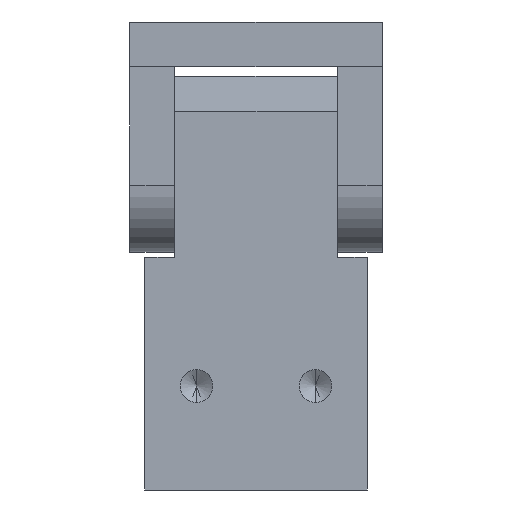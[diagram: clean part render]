
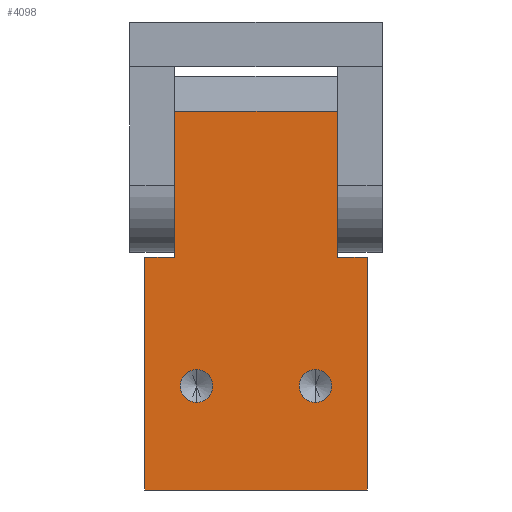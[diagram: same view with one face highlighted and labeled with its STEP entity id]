
A CAD part, left-side view. The second image highlights one B-rep face of the part: STEP entity #4098.
In plain terms, the highlighted planar face has unit normal (-1, 0, 0).
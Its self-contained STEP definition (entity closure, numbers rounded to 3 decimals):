
#5 = CARTESIAN_POINT ( 'NONE',  ( -58., 0., 47. ) ) ;
#6 = LINE ( 'NONE', #5, #8 ) ;
#8 = VECTOR ( 'NONE', #14, 1000. ) ;
#14 = DIRECTION ( 'NONE',  ( 0., -1., 0. ) ) ;
#23 = AXIS2_PLACEMENT_3D ( 'NONE', #39, #58, #53 ) ;
#25 = PLANE ( 'NONE',  #23 ) ;
#39 = CARTESIAN_POINT ( 'NONE',  ( -58., 0., 47. ) ) ;
#53 = DIRECTION ( 'NONE',  ( 0., 0., -1. ) ) ;
#58 = DIRECTION ( 'NONE',  ( 1., 0., 0. ) ) ;
#59 = FACE_BOUND ( 'NONE', #4097, .T. ) ;
#64 = CARTESIAN_POINT ( 'NONE',  ( -58., 38.95, 76.5 ) ) ;
#67 = FACE_OUTER_BOUND ( 'NONE', #4287, .T. ) ;
#71 = FACE_BOUND ( 'NONE', #4024, .T. ) ;
#150 = CARTESIAN_POINT ( 'NONE',  ( -58., 38.95, 47. ) ) ;
#227 = CARTESIAN_POINT ( 'NONE',  ( -58., 0., 47. ) ) ;
#228 = LINE ( 'NONE', #227, #255 ) ;
#234 = LINE ( 'NONE', #250, #249 ) ;
#237 = DIRECTION ( 'NONE',  ( 0., 0., -1. ) ) ;
#248 = DIRECTION ( 'NONE',  ( 0., -1., 0. ) ) ;
#249 = VECTOR ( 'NONE', #248, 1000. ) ;
#250 = CARTESIAN_POINT ( 'NONE',  ( -58., 0., 47. ) ) ;
#255 = VECTOR ( 'NONE', #237, 1000. ) ;
#267 = CARTESIAN_POINT ( 'NONE',  ( -58., 0., 47. ) ) ;
#3000 = CARTESIAN_POINT ( 'NONE',  ( -58., 0., 0. ) ) ;
#3036 = VECTOR ( 'NONE', #3051, 1000. ) ;
#3037 = CARTESIAN_POINT ( 'NONE',  ( -58., 34.5, 21. ) ) ;
#3038 = DIRECTION ( 'NONE',  ( 0., 0., -1. ) ) ;
#3039 = VECTOR ( 'NONE', #3038, 1000. ) ;
#3040 = CARTESIAN_POINT ( 'NONE',  ( -58., 38.95, 83.5 ) ) ;
#3041 = LINE ( 'NONE', #3040, #3039 ) ;
#3043 = DIRECTION ( 'NONE',  ( 0., 0., -1. ) ) ;
#3044 = VECTOR ( 'NONE', #3043, 1000. ) ;
#3045 = AXIS2_PLACEMENT_3D ( 'NONE', #3037, #3053, #3052 ) ;
#3046 = CIRCLE ( 'NONE', #3045, 3.3 ) ;
#3047 = CARTESIAN_POINT ( 'NONE',  ( -58., 6.05, 83.5 ) ) ;
#3048 = LINE ( 'NONE', #3047, #3044 ) ;
#3049 = CARTESIAN_POINT ( 'NONE',  ( -58., 38.95, 76.5 ) ) ;
#3050 = LINE ( 'NONE', #3049, #3036 ) ;
#3051 = DIRECTION ( 'NONE',  ( 0., 1., 0. ) ) ;
#3052 = DIRECTION ( 'NONE',  ( 0., 0., 1. ) ) ;
#3053 = DIRECTION ( 'NONE',  ( -1., 0., 0. ) ) ;
#3057 = CARTESIAN_POINT ( 'NONE',  ( -58., 6.05, 47. ) ) ;
#3058 = CARTESIAN_POINT ( 'NONE',  ( -58., 6.05, 76.5 ) ) ;
#3107 = EDGE_CURVE ( 'NONE', #3135, #3911, #4697, .T. ) ;
#3120 = VERTEX_POINT ( 'NONE', #4775 ) ;
#3133 = EDGE_CURVE ( 'NONE', #3910, #3120, #4722, .T. ) ;
#3135 = VERTEX_POINT ( 'NONE', #4723 ) ;
#3761 = EDGE_CURVE ( 'NONE', #4054, #3902, #5402, .T. ) ;
#3902 = VERTEX_POINT ( 'NONE', #5512 ) ;
#3910 = VERTEX_POINT ( 'NONE', #5433 ) ;
#3911 = VERTEX_POINT ( 'NONE', #5446 ) ;
#4017 = EDGE_CURVE ( 'NONE', #3120, #3910, #5500, .T. ) ;
#4024 = EDGE_LOOP ( 'NONE', ( #4286, #4091 ) ) ;
#4026 = EDGE_CURVE ( 'NONE', #3902, #4271, #5595, .T. ) ;
#4054 = VERTEX_POINT ( 'NONE', #5753 ) ;
#4077 = EDGE_CURVE ( 'NONE', #4054, #4124, #6, .T. ) ;
#4087 = VERTEX_POINT ( 'NONE', #64 ) ;
#4091 = ORIENTED_EDGE ( 'NONE', *, *, #3107, .F. ) ;
#4094 = ORIENTED_EDGE ( 'NONE', *, *, #3133, .F. ) ;
#4096 = ORIENTED_EDGE ( 'NONE', *, *, #4017, .F. ) ;
#4097 = EDGE_LOOP ( 'NONE', ( #4096, #4094 ) ) ;
#4098 = ADVANCED_FACE ( 'NONE', ( #71, #59, #67 ), #25, .F. ) ;
#4124 = VERTEX_POINT ( 'NONE', #150 ) ;
#4217 = EDGE_CURVE ( 'NONE', #4292, #4235, #234, .T. ) ;
#4219 = EDGE_CURVE ( 'NONE', #4235, #4271, #228, .T. ) ;
#4222 = ORIENTED_EDGE ( 'NONE', *, *, #4217, .F. ) ;
#4234 = ORIENTED_EDGE ( 'NONE', *, *, #4219, .F. ) ;
#4235 = VERTEX_POINT ( 'NONE', #267 ) ;
#4271 = VERTEX_POINT ( 'NONE', #3000 ) ;
#4278 = ORIENTED_EDGE ( 'NONE', *, *, #3761, .T. ) ;
#4279 = ORIENTED_EDGE ( 'NONE', *, *, #4077, .F. ) ;
#4281 = ORIENTED_EDGE ( 'NONE', *, *, #4026, .T. ) ;
#4282 = EDGE_CURVE ( 'NONE', #4291, #4087, #3050, .T. ) ;
#4283 = ORIENTED_EDGE ( 'NONE', *, *, #4282, .T. ) ;
#4285 = EDGE_CURVE ( 'NONE', #4087, #4124, #3041, .T. ) ;
#4286 = ORIENTED_EDGE ( 'NONE', *, *, #4288, .F. ) ;
#4287 = EDGE_LOOP ( 'NONE', ( #4289, #4283, #4293, #4279, #4278, #4281, #4234, #4222 ) ) ;
#4288 = EDGE_CURVE ( 'NONE', #3911, #3135, #3046, .T. ) ;
#4289 = ORIENTED_EDGE ( 'NONE', *, *, #4290, .F. ) ;
#4290 = EDGE_CURVE ( 'NONE', #4291, #4292, #3048, .T. ) ;
#4291 = VERTEX_POINT ( 'NONE', #3058 ) ;
#4292 = VERTEX_POINT ( 'NONE', #3057 ) ;
#4293 = ORIENTED_EDGE ( 'NONE', *, *, #4285, .T. ) ;
#4697 = CIRCLE ( 'NONE', #4745, 3.3 ) ;
#4713 = DIRECTION ( 'NONE',  ( 0., 0., 1. ) ) ;
#4714 = DIRECTION ( 'NONE',  ( -1., 0., 0. ) ) ;
#4715 = CARTESIAN_POINT ( 'NONE',  ( -58., 10.5, 21. ) ) ;
#4722 = CIRCLE ( 'NONE', #4753, 3.3 ) ;
#4723 = CARTESIAN_POINT ( 'NONE',  ( -58., 34.5, 17.7 ) ) ;
#4734 = CARTESIAN_POINT ( 'NONE',  ( -58., 34.5, 21. ) ) ;
#4737 = DIRECTION ( 'NONE',  ( 0., 0., 1. ) ) ;
#4738 = DIRECTION ( 'NONE',  ( -1., 0., 0. ) ) ;
#4745 = AXIS2_PLACEMENT_3D ( 'NONE', #4734, #4738, #4737 ) ;
#4753 = AXIS2_PLACEMENT_3D ( 'NONE', #4715, #4714, #4713 ) ;
#4775 = CARTESIAN_POINT ( 'NONE',  ( -58., 10.5, 24.3 ) ) ;
#5400 = VECTOR ( 'NONE', #5422, 1000. ) ;
#5401 = CARTESIAN_POINT ( 'NONE',  ( -58., 45., 47. ) ) ;
#5402 = LINE ( 'NONE', #5401, #5400 ) ;
#5422 = DIRECTION ( 'NONE',  ( 0., 0., -1. ) ) ;
#5433 = CARTESIAN_POINT ( 'NONE',  ( -58., 10.5, 17.7 ) ) ;
#5446 = CARTESIAN_POINT ( 'NONE',  ( -58., 34.5, 24.3 ) ) ;
#5499 = AXIS2_PLACEMENT_3D ( 'NONE', #5524, #5539, #5510 ) ;
#5500 = CIRCLE ( 'NONE', #5499, 3.3 ) ;
#5510 = DIRECTION ( 'NONE',  ( 0., 0., 1. ) ) ;
#5512 = CARTESIAN_POINT ( 'NONE',  ( -58., 45., 0. ) ) ;
#5524 = CARTESIAN_POINT ( 'NONE',  ( -58., 10.5, 21. ) ) ;
#5539 = DIRECTION ( 'NONE',  ( -1., 0., 0. ) ) ;
#5595 = LINE ( 'NONE', #5609, #5615 ) ;
#5609 = CARTESIAN_POINT ( 'NONE',  ( -58., 0., 0. ) ) ;
#5614 = DIRECTION ( 'NONE',  ( 0., -1., 0. ) ) ;
#5615 = VECTOR ( 'NONE', #5614, 1000. ) ;
#5753 = CARTESIAN_POINT ( 'NONE',  ( -58., 45., 47. ) ) ;
